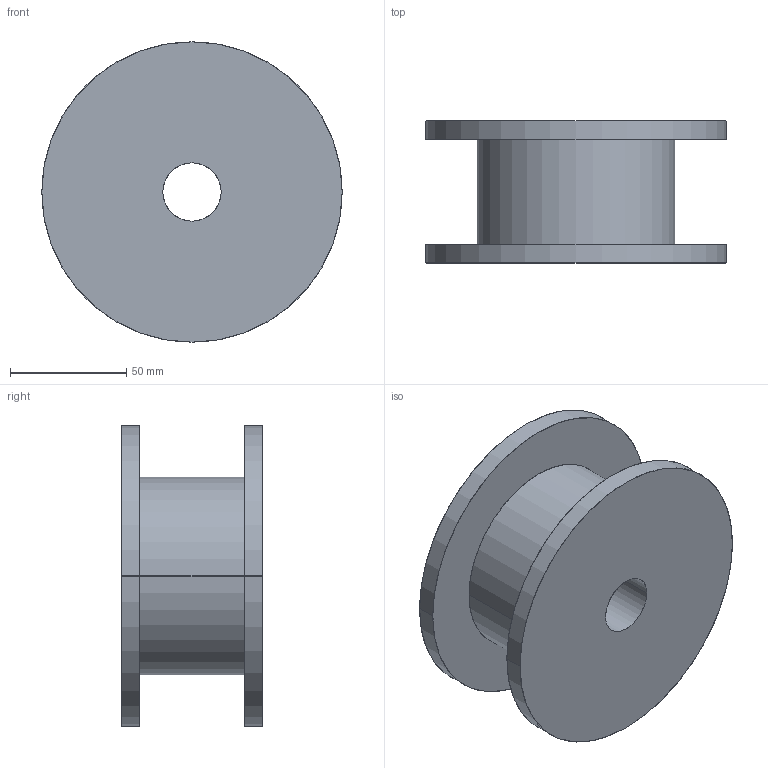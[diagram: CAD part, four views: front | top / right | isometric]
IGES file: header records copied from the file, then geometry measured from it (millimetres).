
Start section: SolidWorks IGES file using analytic representation for surfaces
Global section: file name: C:\Documents and Settings\URETIM3\Desktop\yeni katalog tolgay düzenli\D kataloðu\300 AVARA KASNAK\300 ÝTÝ 121.IGS; native system: SolidWorks 2006 by SolidWorks Corporation; preprocessor: SolidWorks 2006 by SolidWorks Corporation; author: URETIM3; date: 060912.114150; units: millimetre
Bounding box: 129 x 61 x 129 mm (x, y, z)
Surface area: 63240.3 mm2 (no closed solid volume)
Topology: 0 solids, 0 shells, 12 faces, 480 edges, 480 vertices
Faces by surface type: revolution 8, bspline 4
